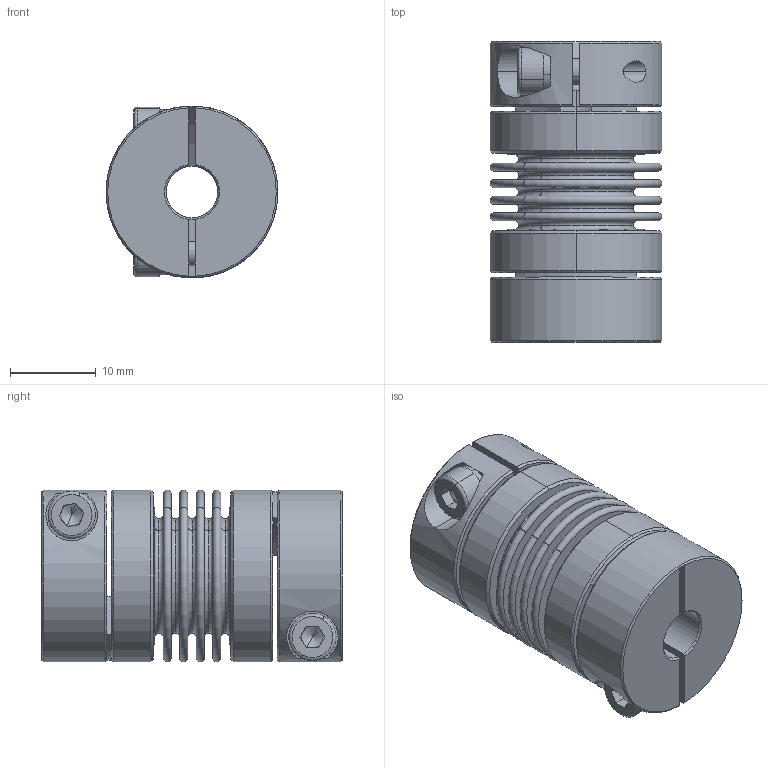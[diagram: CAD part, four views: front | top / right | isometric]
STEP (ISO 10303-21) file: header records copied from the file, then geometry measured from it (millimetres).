
FILE_DESCRIPTION (( 'STEP AP203' ), '1' );
FILE_NAME ('LB-B-D20L34-6-6.STEP', '2021-11-04T01:40:15', ( '' ), ( '' ), 'SwSTEP 2.0', 'SolidWorks 2018', '' );
FILE_SCHEMA (( 'CONFIG_CONTROL_DESIGN' ));
Length unit declared in the file: millimetre
Products named in the file (2): 零件4^LB-B-D20L34 波纹管联轴器-组装体; LB-B-D20L34-6-6
Assembly tree (1 placements, depth 2):
  LB-B-D20L34-6-6
    零件4^LB-B-D20L34 波纹管联轴器-组装体
Bounding box: 20 x 35 x 20 mm (x, y, z)
Volume: 6124.3 mm3; surface area: 9563.3 mm2
Topology: 1 solids, 1 shells, 246 faces, 578 edges, 358 vertices
Faces by surface type: plane 82, torus 68, cylinder 62, cone 34
Entity records: 7554 total; most frequent: CARTESIAN_POINT 1494, DIRECTION 1382, ORIENTED_EDGE 1148, AXIS2_PLACEMENT_3D 606, EDGE_CURVE 574, VERTEX_POINT 358, CIRCLE 356, EDGE_LOOP 288
